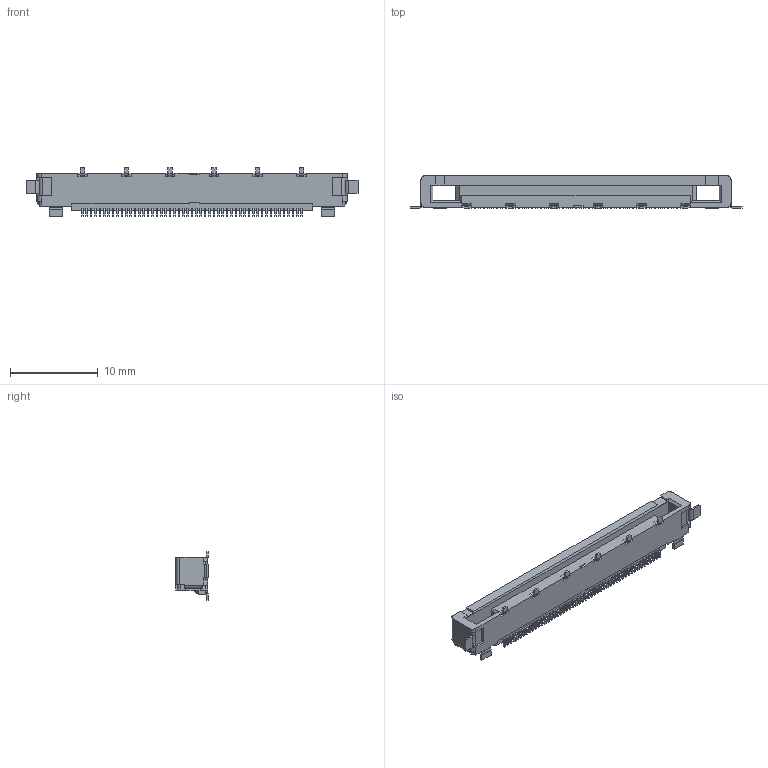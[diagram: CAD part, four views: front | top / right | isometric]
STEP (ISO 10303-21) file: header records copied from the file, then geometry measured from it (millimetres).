
FILE_DESCRIPTION(('STEP AP242'),'1');
FILE_NAME('fi-re51s-hf.stp','2021-07-15T06:40:10',('TraceParts'),('TraceParts S.A.'),'Spatial InterOp 3D',' ',' ');
FILE_SCHEMA(('AP242_MANAGED_MODEL_BASED_3D_ENGINEERING_MIM_LF {1 0 10303 442 1 1 4}'));
Length unit declared in the file: millimetre
Products named in the file (1): fi-re51s-hf
Bounding box: 37.85 x 3.75 x 5.5 mm (x, y, z)
Volume: 395.9 mm3; surface area: 839.7 mm2
Topology: 1 solids, 1 shells, 1446 faces, 4087 edges, 2676 vertices
Faces by surface type: plane 1138, cylinder 308
Entity records: 46737 total; most frequent: CARTESIAN_POINT 8531, ORIENTED_EDGE 8174, DIRECTION 7612, EDGE_CURVE 4087, LINE 3322, VECTOR 3322, VERTEX_POINT 2676, AXIS2_PLACEMENT_3D 2145
